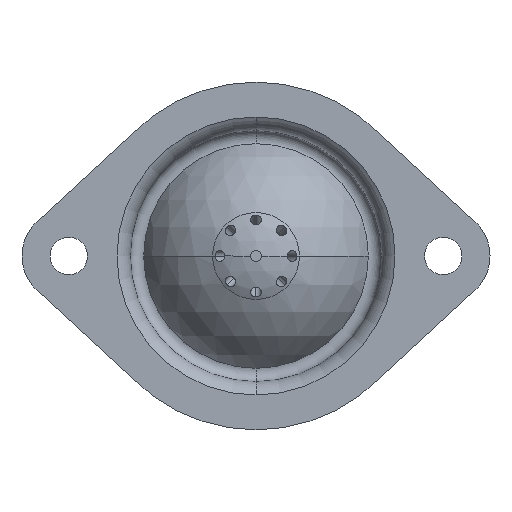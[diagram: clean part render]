
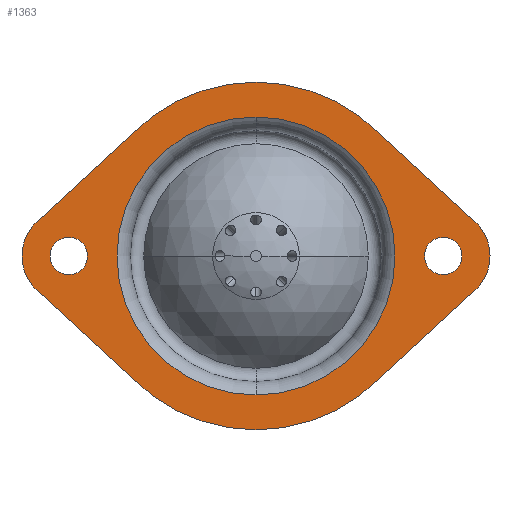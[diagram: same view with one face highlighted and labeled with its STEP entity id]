
A CAD part, front view. The second image highlights one B-rep face of the part: STEP entity #1363.
In plain terms, the highlighted planar face has unit normal (0, -1, 0).
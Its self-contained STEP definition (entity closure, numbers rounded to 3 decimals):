
#25 = DIRECTION ( 'NONE',  ( 0., 1., 0. ) ) ;
#31 = EDGE_CURVE ( 'NONE', #996, #261, #231, .T. ) ;
#60 = CARTESIAN_POINT ( 'NONE',  ( -28., 0., 0. ) ) ;
#67 = DIRECTION ( 'NONE',  ( 0.735, 0., -0.678 ) ) ;
#74 = FACE_BOUND ( 'NONE', #1781, .T. ) ;
#78 = CIRCLE ( 'NONE', #1784, 20.79 ) ;
#83 = DIRECTION ( 'NONE',  ( 0., 0., 1. ) ) ;
#90 = VECTOR ( 'NONE', #671, 1000. ) ;
#95 = ORIENTED_EDGE ( 'NONE', *, *, #1392, .F. ) ;
#99 = VERTEX_POINT ( 'NONE', #497 ) ;
#107 = AXIS2_PLACEMENT_3D ( 'NONE', #60, #1169, #219 ) ;
#111 = CARTESIAN_POINT ( 'NONE',  ( 0., 0., -20.79 ) ) ;
#122 = ORIENTED_EDGE ( 'NONE', *, *, #1403, .F. ) ;
#219 = DIRECTION ( 'NONE',  ( 0., 0., 1. ) ) ;
#227 = CARTESIAN_POINT ( 'NONE',  ( 18.464, 0., 18.306 ) ) ;
#231 = CIRCLE ( 'NONE', #1247, 2.8 ) ;
#234 = ORIENTED_EDGE ( 'NONE', *, *, #31, .T. ) ;
#245 = VERTEX_POINT ( 'NONE', #1323 ) ;
#252 = EDGE_LOOP ( 'NONE', ( #2057, #1540 ) ) ;
#261 = VERTEX_POINT ( 'NONE', #1300 ) ;
#318 = EDGE_CURVE ( 'NONE', #1536, #1841, #1940, .T. ) ;
#324 = DIRECTION ( 'NONE',  ( 0., 1., 0. ) ) ;
#325 = EDGE_LOOP ( 'NONE', ( #892, #1670, #475, #122, #2052, #694, #406, #1645, #95 ) ) ;
#326 = DIRECTION ( 'NONE',  ( 0., 1., 0. ) ) ;
#329 = DIRECTION ( 'NONE',  ( 0., 1., 0. ) ) ;
#366 = DIRECTION ( 'NONE',  ( 0., -1., 0. ) ) ;
#378 = DIRECTION ( 'NONE',  ( 0., 1., 0. ) ) ;
#390 = AXIS2_PLACEMENT_3D ( 'NONE', #1156, #366, #1485 ) ;
#400 = VERTEX_POINT ( 'NONE', #1656 ) ;
#406 = ORIENTED_EDGE ( 'NONE', *, *, #1510, .F. ) ;
#411 = CARTESIAN_POINT ( 'NONE',  ( 0., 0., 20.79 ) ) ;
#417 = CARTESIAN_POINT ( 'NONE',  ( 18.464, 0., -18.306 ) ) ;
#432 = EDGE_LOOP ( 'NONE', ( #234, #627 ) ) ;
#434 = FACE_BOUND ( 'NONE', #432, .T. ) ;
#475 = ORIENTED_EDGE ( 'NONE', *, *, #1366, .F. ) ;
#497 = CARTESIAN_POINT ( 'NONE',  ( -32.743, 0., 5.148 ) ) ;
#515 = VERTEX_POINT ( 'NONE', #1265 ) ;
#543 = CARTESIAN_POINT ( 'NONE',  ( 0., 0., 0. ) ) ;
#582 = CARTESIAN_POINT ( 'NONE',  ( 28., 0., 2.8 ) ) ;
#627 = ORIENTED_EDGE ( 'NONE', *, *, #1389, .T. ) ;
#646 = CIRCLE ( 'NONE', #1088, 26. ) ;
#664 = CARTESIAN_POINT ( 'NONE',  ( 28., 0., 0. ) ) ;
#671 = DIRECTION ( 'NONE',  ( -0.735, 0., -0.678 ) ) ;
#686 = CARTESIAN_POINT ( 'NONE',  ( -18.464, 0., -18.306 ) ) ;
#694 = ORIENTED_EDGE ( 'NONE', *, *, #1416, .F. ) ;
#696 = LINE ( 'NONE', #686, #1959 ) ;
#697 = DIRECTION ( 'NONE',  ( 0., 0., 1. ) ) ;
#801 = CIRCLE ( 'NONE', #107, 7. ) ;
#821 = CARTESIAN_POINT ( 'NONE',  ( 0., 0., 0. ) ) ;
#827 = EDGE_CURVE ( 'NONE', #944, #955, #78, .T. ) ;
#829 = DIRECTION ( 'NONE',  ( 0., 0., 1. ) ) ;
#856 = ORIENTED_EDGE ( 'NONE', *, *, #318, .T. ) ;
#857 = DIRECTION ( 'NONE',  ( -0.735, 0., 0.678 ) ) ;
#862 = FACE_OUTER_BOUND ( 'NONE', #325, .T. ) ;
#892 = ORIENTED_EDGE ( 'NONE', *, *, #1419, .F. ) ;
#944 = VERTEX_POINT ( 'NONE', #411 ) ;
#955 = VERTEX_POINT ( 'NONE', #111 ) ;
#971 = CARTESIAN_POINT ( 'NONE',  ( 0., 0., 0. ) ) ;
#989 = DIRECTION ( 'NONE',  ( 0., 0., 1. ) ) ;
#992 = VERTEX_POINT ( 'NONE', #1071 ) ;
#996 = VERTEX_POINT ( 'NONE', #1388 ) ;
#997 = DIRECTION ( 'NONE',  ( 0.735, 0., 0.678 ) ) ;
#1001 = PLANE ( 'NONE',  #390 ) ;
#1025 = DIRECTION ( 'NONE',  ( 0., 1., 0. ) ) ;
#1071 = CARTESIAN_POINT ( 'NONE',  ( -32.743, 0., -5.148 ) ) ;
#1078 = VERTEX_POINT ( 'NONE', #1085 ) ;
#1085 = CARTESIAN_POINT ( 'NONE',  ( -18.464, 0., -18.306 ) ) ;
#1088 = AXIS2_PLACEMENT_3D ( 'NONE', #543, #1686, #697 ) ;
#1109 = ORIENTED_EDGE ( 'NONE', *, *, #1439, .T. ) ;
#1128 = DIRECTION ( 'NONE',  ( 0., 0., 1. ) ) ;
#1156 = CARTESIAN_POINT ( 'NONE',  ( -21.2, 0., 0. ) ) ;
#1164 = CIRCLE ( 'NONE', #1582, 26. ) ;
#1169 = DIRECTION ( 'NONE',  ( 0., 1., 0. ) ) ;
#1180 = EDGE_CURVE ( 'NONE', #2048, #1078, #1164, .T. ) ;
#1182 = VECTOR ( 'NONE', #67, 1000. ) ;
#1188 = CARTESIAN_POINT ( 'NONE',  ( 28., 0., -2.8 ) ) ;
#1247 = AXIS2_PLACEMENT_3D ( 'NONE', #1832, #1444, #1273 ) ;
#1265 = CARTESIAN_POINT ( 'NONE',  ( -18.464, 0., 18.306 ) ) ;
#1273 = DIRECTION ( 'NONE',  ( 0., 0., 1. ) ) ;
#1276 = CARTESIAN_POINT ( 'NONE',  ( 28., 0., 0. ) ) ;
#1278 = VECTOR ( 'NONE', #997, 1000. ) ;
#1279 = CARTESIAN_POINT ( 'NONE',  ( 0., 0., 0. ) ) ;
#1281 = CARTESIAN_POINT ( 'NONE',  ( 28., 0., 0. ) ) ;
#1300 = CARTESIAN_POINT ( 'NONE',  ( -28., 0., 2.8 ) ) ;
#1315 = CARTESIAN_POINT ( 'NONE',  ( 18.464, 0., -18.306 ) ) ;
#1323 = CARTESIAN_POINT ( 'NONE',  ( 18.464, 0., 18.306 ) ) ;
#1333 = CARTESIAN_POINT ( 'NONE',  ( -28., 0., 0. ) ) ;
#1356 = EDGE_CURVE ( 'NONE', #99, #515, #1733, .T. ) ;
#1363 = ADVANCED_FACE ( 'NONE', ( #1782, #74, #862, #434 ), #1001, .T. ) ;
#1366 = EDGE_CURVE ( 'NONE', #992, #99, #801, .T. ) ;
#1388 = CARTESIAN_POINT ( 'NONE',  ( -28., 0., -2.8 ) ) ;
#1389 = EDGE_CURVE ( 'NONE', #261, #996, #1621, .T. ) ;
#1392 = EDGE_CURVE ( 'NONE', #245, #1436, #2058, .T. ) ;
#1403 = EDGE_CURVE ( 'NONE', #1078, #992, #696, .T. ) ;
#1411 = CIRCLE ( 'NONE', #1982, 7. ) ;
#1416 = EDGE_CURVE ( 'NONE', #1596, #2048, #646, .T. ) ;
#1418 = CARTESIAN_POINT ( 'NONE',  ( 0., 0., -26. ) ) ;
#1419 = EDGE_CURVE ( 'NONE', #515, #245, #1913, .T. ) ;
#1436 = VERTEX_POINT ( 'NONE', #1855 ) ;
#1439 = EDGE_CURVE ( 'NONE', #1841, #1536, #1462, .T. ) ;
#1444 = DIRECTION ( 'NONE',  ( 0., 1., 0. ) ) ;
#1447 = DIRECTION ( 'NONE',  ( 0., 0., 1. ) ) ;
#1448 = DIRECTION ( 'NONE',  ( 0., 0., 1. ) ) ;
#1450 = DIRECTION ( 'NONE',  ( 0., 0., 1. ) ) ;
#1462 = CIRCLE ( 'NONE', #2081, 2.8 ) ;
#1470 = EDGE_CURVE ( 'NONE', #955, #944, #1861, .T. ) ;
#1485 = DIRECTION ( 'NONE',  ( 0., 0., -1. ) ) ;
#1486 = EDGE_CURVE ( 'NONE', #1436, #400, #1411, .T. ) ;
#1501 = DIRECTION ( 'NONE',  ( 0., 0., 1. ) ) ;
#1510 = EDGE_CURVE ( 'NONE', #400, #1596, #1809, .T. ) ;
#1536 = VERTEX_POINT ( 'NONE', #1188 ) ;
#1540 = ORIENTED_EDGE ( 'NONE', *, *, #1470, .T. ) ;
#1561 = AXIS2_PLACEMENT_3D ( 'NONE', #821, #1973, #989 ) ;
#1582 = AXIS2_PLACEMENT_3D ( 'NONE', #1279, #326, #1448 ) ;
#1596 = VERTEX_POINT ( 'NONE', #417 ) ;
#1621 = CIRCLE ( 'NONE', #1955, 2.8 ) ;
#1645 = ORIENTED_EDGE ( 'NONE', *, *, #1486, .F. ) ;
#1656 = CARTESIAN_POINT ( 'NONE',  ( 32.743, 0., -5.148 ) ) ;
#1667 = CARTESIAN_POINT ( 'NONE',  ( -18.464, 0., 18.306 ) ) ;
#1670 = ORIENTED_EDGE ( 'NONE', *, *, #1356, .F. ) ;
#1686 = DIRECTION ( 'NONE',  ( 0., 1., 0. ) ) ;
#1700 = AXIS2_PLACEMENT_3D ( 'NONE', #1281, #329, #1450 ) ;
#1733 = LINE ( 'NONE', #1667, #1278 ) ;
#1781 = EDGE_LOOP ( 'NONE', ( #856, #1109 ) ) ;
#1782 = FACE_BOUND ( 'NONE', #252, .T. ) ;
#1784 = AXIS2_PLACEMENT_3D ( 'NONE', #971, #25, #1128 ) ;
#1809 = LINE ( 'NONE', #1315, #90 ) ;
#1820 = DIRECTION ( 'NONE',  ( 0., 1., 0. ) ) ;
#1832 = CARTESIAN_POINT ( 'NONE',  ( -28., 0., 0. ) ) ;
#1841 = VERTEX_POINT ( 'NONE', #582 ) ;
#1855 = CARTESIAN_POINT ( 'NONE',  ( 32.743, 0., 5.148 ) ) ;
#1861 = CIRCLE ( 'NONE', #1561, 20.79 ) ;
#1913 = CIRCLE ( 'NONE', #1970, 26. ) ;
#1940 = CIRCLE ( 'NONE', #1700, 2.8 ) ;
#1955 = AXIS2_PLACEMENT_3D ( 'NONE', #1333, #378, #1501 ) ;
#1959 = VECTOR ( 'NONE', #857, 1000. ) ;
#1970 = AXIS2_PLACEMENT_3D ( 'NONE', #2006, #1025, #83 ) ;
#1973 = DIRECTION ( 'NONE',  ( 0., 1., 0. ) ) ;
#1982 = AXIS2_PLACEMENT_3D ( 'NONE', #664, #1820, #829 ) ;
#2006 = CARTESIAN_POINT ( 'NONE',  ( 0., 0., 0. ) ) ;
#2048 = VERTEX_POINT ( 'NONE', #1418 ) ;
#2052 = ORIENTED_EDGE ( 'NONE', *, *, #1180, .F. ) ;
#2057 = ORIENTED_EDGE ( 'NONE', *, *, #827, .T. ) ;
#2058 = LINE ( 'NONE', #227, #1182 ) ;
#2081 = AXIS2_PLACEMENT_3D ( 'NONE', #1276, #324, #1447 ) ;
